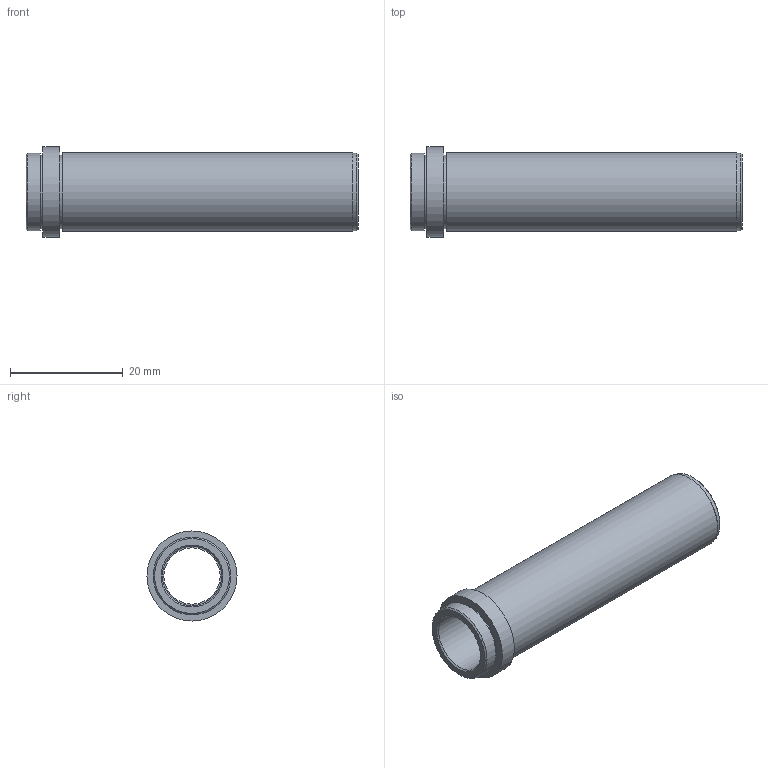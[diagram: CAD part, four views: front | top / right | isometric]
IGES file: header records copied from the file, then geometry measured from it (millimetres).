
Global section: file name: BG06.010056.ipt; native system: Autodesk Inventor 2021; preprocessor: unknown; author: SM; date: 20211221.173912; units: millimetre
Bounding box: 59 x 16 x 16 mm (x, y, z)
Volume: 4251.1 mm3; surface area: 4819.2 mm2
Topology: 1 solids, 1 shells, 20 faces, 36 edges, 24 vertices
Faces by surface type: plane 8, cylinder 6, revolution 4, cone 2
Full cylindrical faces by diameter (mm): 13 x2, 13.8 x2, 14 x1, 16 x1
